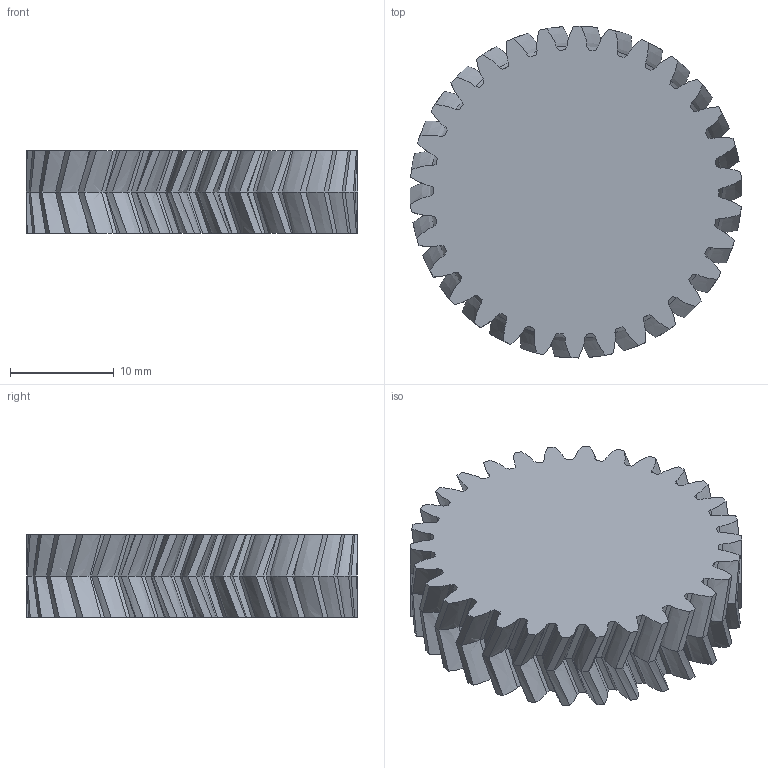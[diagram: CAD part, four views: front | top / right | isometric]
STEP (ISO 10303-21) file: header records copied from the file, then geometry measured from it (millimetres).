
FILE_DESCRIPTION(('FreeCAD Model'),'2;1');
FILE_NAME('C:/Users/germt/Documents/t-flex_models/колёса_130мм/Редуктор 6_2х_ступенчатый/Gear_M1_30T_shevron_20deg.step', '2021-04-18T12:49:51',('Author'),(''), 'Open CASCADE STEP processor 7.3','FreeCAD','Unknown');
FILE_SCHEMA(('AUTOMOTIVE_DESIGN { 1 0 10303 214 1 1 1 1 }'));
Length unit declared in the file: millimetre
Products named in the file (1): involutegear
Bounding box: 31.99 x 32 x 8 mm (x, y, z)
Volume: 5594.8 mm3; surface area: 2955.5 mm2
Topology: 1 solids, 1 shells, 362 faces, 900 edges, 540 vertices
Faces by surface type: bspline 362
Entity records: 31185 total; most frequent: CARTESIAN_POINT 19269, B_SPLINE_CURVE_WITH_KNOTS 2700, ORIENTED_EDGE 1800, PCURVE 1800, DEFINITIONAL_REPRESENTATION 1800, EDGE_CURVE 900, SURFACE_CURVE 900, VERTEX_POINT 540
